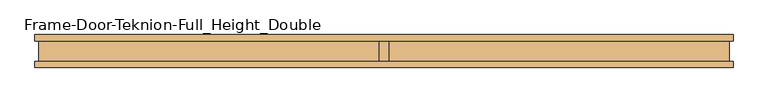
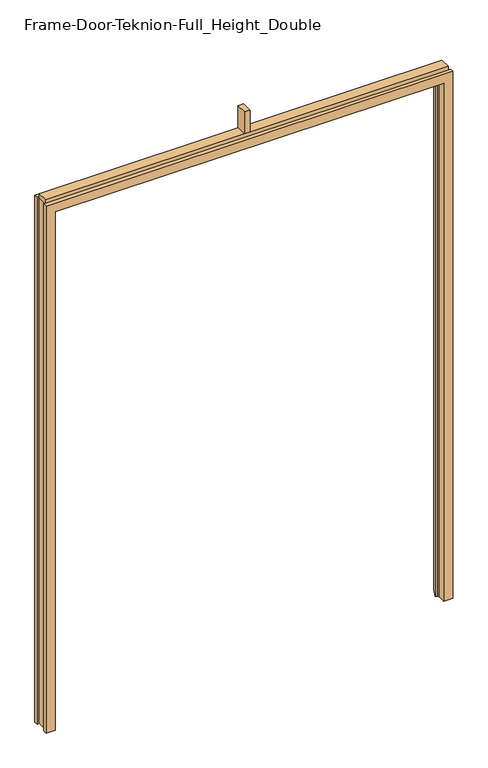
"""IFC4 building model written with IfcOpenShell, lengths in millimetres: door geometry, Frame-Door-Teknion-Full_Height_Double : FPFDS."""

from ifc_helpers import new_model, si_unit, frame, origin, place, context, project, spatial, polyline, outline, extrude, faceted_brep, source, transform, mapped, element, save


def frame_door_teknion_full_height_double_649dfa20(model_context):
    return source(origin(), model_context, "Body", "SolidModel", [
        faceted_brep([(-1008.7894347, -50.038, 0.0), (-1056.8208347, -50.038, 0.0), (-1056.8208347, -30.7719997, 0.0), (-1045.8152344, -30.7719997, 0.0), (-1045.8152344, 30.7719997, 0.0), (-1056.8208347, 30.7719997, 0.0), (-1056.8208347, 50.038, 0.0), (-1014.9105299, 50.038, 0.0), (-992.4634123, -0.7133435, 0.0), (-1005.3858347, -0.7133435, 0.0), (-1005.3858347, -9.6287435, 0.0), (-1008.7894347, -9.6287435, 0.0), (-1008.7894347, -9.6287435, 2842.4886), (-1008.7894347, -50.038, 2842.4886), (-1005.3858347, -9.6287435, 2839.085), (1005.3858347, -9.6287435, 2839.085), (1005.3858347, -9.6287435, 0.0), (1008.7894347, -9.6287435, 0.0), (1008.7894347, -9.6287435, 2842.4886), (-1005.3858347, -0.7133435, 2839.085), (-992.4634123, -0.7133435, 2826.1625776), (992.4634123, -0.7133435, 2826.1625776), (992.4634123, -0.7133435, 0.0), (1005.3858347, -0.7133435, 0.0), (1005.3858347, -0.7133435, 2839.085), (-1014.9105299, 50.038, 2848.6096953), (-1056.8208347, 50.038, 2890.52), (1056.8208347, 50.038, 2890.52), (1056.8208347, 50.038, 0.0), (1014.9105299, 50.038, 0.0), (1014.9105299, 50.038, 2848.6096953), (-1056.8208347, 30.7719997, 2890.52), (-1045.8152344, 30.7719997, 2879.5143997), (1045.8152344, 30.7719997, 2879.5143997), (1045.8152344, 30.7719997, 0.0), (1056.8208347, 30.7719997, 0.0), (1056.8208347, 30.7719997, 2890.52), (-1045.8152344, -30.7719997, 2879.5143997), (-1056.8208347, -30.7719997, 2890.52), (1056.8208347, -30.7719997, 2890.52), (1056.8208347, -30.7719997, 0.0), (1045.8152344, -30.7719997, 0.0), (1045.8152344, -30.7719997, 2879.5143997), (-1056.8208347, -50.038, 2890.52), (1008.7894347, -50.038, 2842.4886), (1008.7894347, -50.038, 0.0), (1056.8208347, -50.038, 0.0), (1056.8208347, -50.038, 2890.52)], [[[0, 1, 2, 3, 4, 5, 6, 7, 8, 9, 10, 11]], [[11, 12, 13, 0]], [[10, 14, 15, 16, 17, 18, 12, 11]], [[9, 19, 14, 10]], [[8, 20, 21, 22, 23, 24, 19, 9]], [[7, 25, 20, 8]], [[6, 26, 27, 28, 29, 30, 25, 7]], [[5, 31, 26, 6]], [[4, 32, 33, 34, 35, 36, 31, 5]], [[3, 37, 32, 4]], [[2, 38, 39, 40, 41, 42, 37, 3]], [[1, 43, 38, 2]], [[0, 13, 44, 45, 46, 47, 43, 1]], [[18, 17, 45, 44]], [[45, 17, 16, 23, 22, 29, 28, 35, 34, 41, 40, 46]], [[24, 23, 16, 15]], [[30, 29, 22, 21]], [[36, 35, 28, 27]], [[42, 41, 34, 33]], [[47, 46, 40, 39]], [[12, 18, 44, 13]], [[19, 24, 15, 14]], [[25, 30, 21, 20]], [[31, 36, 27, 26]], [[37, 42, 33, 32]], [[43, 47, 39, 38]]]),
        extrude(outline(polyline([(-1045.8152344, 29.21), (1045.8152344, 29.21), (1045.8152344, -29.21), (-1045.8152344, -29.21), (-1045.8152344, 29.21)])), frame((0.0, 0.0, 2879.725), z_axis=(0.0, 0.0, 1.0), x_axis=(1.0, 0.0, 0.0)), (0.0, 0.0, 1.0), 27.94),
        extrude(outline(polyline([(-13.9898437, 28.971875), (13.9898438, 28.971875), (13.9898438, -28.971875), (-13.9898437, -28.971875), (-13.9898437, 28.971875)])), frame((0.0, 0.0, 2907.665), z_axis=(0.0, 0.0, 1.0), x_axis=(1.0, 0.0, 0.0)), (0.0, 0.0, 1.0), 121.285),
    ])


if __name__ == "__main__":
    model = new_model("IFC4")
    model_context = context("Model", 3, world=origin())
    ifc_project = project(units=[si_unit("LENGTHUNIT", "METRE", prefix="MILLI")], contexts=[model_context])
    site = spatial("IfcSite", under=ifc_project)
    building = spatial("IfcBuilding", under=site)
    placement = place(None, origin())
    frame_door_teknion_full_height_double_shape = frame_door_teknion_full_height_double_649dfa20(model_context)
    element("IfcDoor", 1, ObjectType="Frame-Door-Teknion-Full_Height_Double : FPFDS", at=placement, inside=building, context=model_context, shape_type="MappedRepresentation", body=[
        mapped(frame_door_teknion_full_height_double_shape, transform((0.0, 0.0, 0.0), x_axis=(1.0, 0.0, 0.0), y_axis=(0.0, 1.0, 0.0), z_axis=(0.0, 0.0, 1.0))),
    ])
    save(model, "model.ifc")
